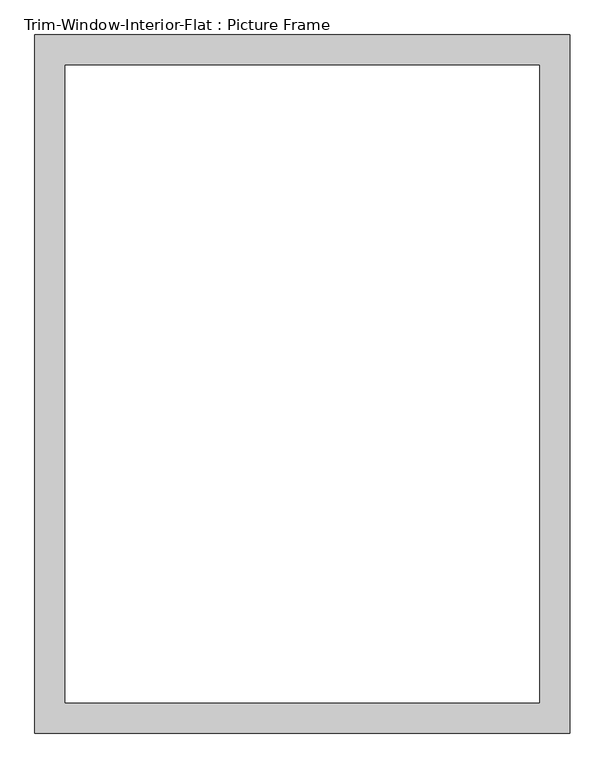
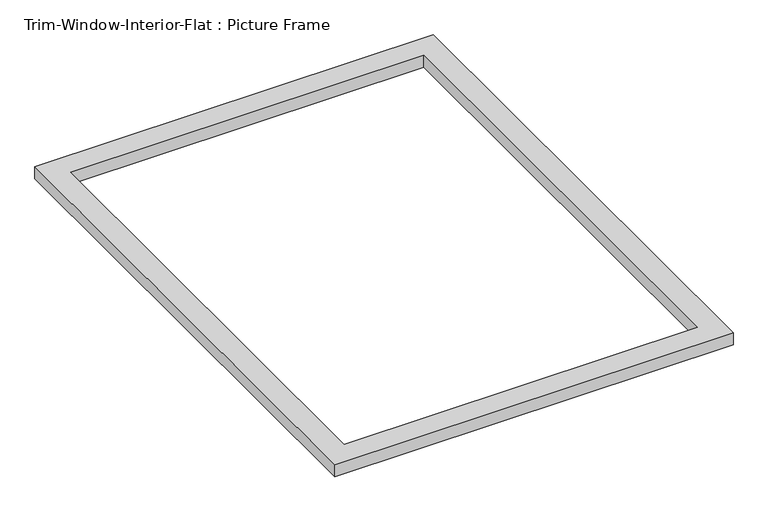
"""IFC4 building model written with IfcOpenShell, lengths in millimetres: proxy geometry, Trim-Window-Interior-Flat : Picture Frame."""

import ifcopenshell
import ifcopenshell.guid

model = None  # the IFC model being written
_history = None  # IfcOwnerHistory: only IFC2X3 demands one
_inside = {}  # id of a spatial element -> (the spatial element, [elements in it])
_under = {}  # id of a project, library or spatial element -> (it, [spatial elements below it])
_declared = {}  # id of a project -> (the project, [libraries it declares])
_typed = {}  # id of a type object -> (the type object, [elements of that type])
_made_of = {}  # id of a material, layer set ... -> (it, [elements and type objects made of it])


def new_model(schema):
    """Start an empty IFC model of exactly this schema.

    Asked for "IFC4X3", IfcOpenShell would pick the latest addendum, in which some entities
    have other attributes; the version numbers below select the first issue.
    IFC2X3 requires an IfcOwnerHistory on every rooted entity: one is made here for all.
    """
    global model, _history
    if schema == "IFC4X3":
        model = ifcopenshell.file(schema_version=(4, 3, 0, 0))
    else:
        model = ifcopenshell.file(schema=schema)
    _inside.clear()
    _under.clear()
    _declared.clear()
    _typed.clear()
    _made_of.clear()
    _history = None
    if model.schema == "IFC2X3":
        org = make("IfcOrganization", Name="unknown")
        user = make(
            "IfcPersonAndOrganization",
            ThePerson=make("IfcPerson", FamilyName="unknown"),
            TheOrganization=org,
        )
        app = make(
            "IfcApplication",
            ApplicationDeveloper=org,
            Version="unknown",
            ApplicationFullName="unknown",
            ApplicationIdentifier="unknown",
        )
        _history = make(
            "IfcOwnerHistory",
            OwningUser=user,
            OwningApplication=app,
            ChangeAction="ADDED",
            CreationDate=0,
        )
    return model


def make(cls, **values):
    """One entity of the class cls with the attributes given. An attribute that is None is left unset."""
    return model.create_entity(
        cls, **{name: value for name, value in values.items() if value is not None}
    )


def rooted(cls, **values):
    """An entity with a GlobalId (a new one), such as an element, a storey or a relation."""
    return make(cls, GlobalId=ifcopenshell.guid.new(), OwnerHistory=_history, **values)


def si_unit(unit_type, name, prefix=None):
    """IfcSIUnit, for example si_unit("LENGTHUNIT", "METRE", prefix="MILLI")."""
    return make("IfcSIUnit", UnitType=unit_type, Prefix=prefix, Name=name)


def assignment(units):
    """IfcUnitAssignment: the units of a project."""
    return None if units is None else make("IfcUnitAssignment", Units=units)


def point(xyz):
    """IfcCartesianPoint."""
    return None if xyz is None else make("IfcCartesianPoint", Coordinates=xyz)


def direction(xyz):
    """IfcDirection."""
    return None if xyz is None else make("IfcDirection", DirectionRatios=xyz)


def frame(location, z_axis=None, x_axis=None):
    """IfcAxis2Placement3D, a coordinate frame: its origin and axes. An axis left out is left unset."""
    return make(
        "IfcAxis2Placement3D",
        Location=point(location),
        Axis=direction(z_axis),
        RefDirection=direction(x_axis),
    )


def origin():
    """The frame at (0, 0, 0) with its axes left unset."""
    return frame((0.0, 0.0, 0.0))


def origin_with_axes():
    """The frame at (0, 0, 0) with the z axis (0, 0, 1) and the x axis (1, 0, 0) written out."""
    return frame((0.0, 0.0, 0.0), z_axis=(0.0, 0.0, 1.0), x_axis=(1.0, 0.0, 0.0))


def place(relative_to, where):
    """IfcLocalPlacement: puts the frame where relative to a parent placement (None: the world)."""
    return make(
        "IfcLocalPlacement", PlacementRelTo=relative_to, RelativePlacement=where
    )


def context(
    kind, dimensions, precision=None, world=None, true_north=None, identifier=None
):
    """IfcGeometricRepresentationContext, for example the 3D "Model" context."""
    return make(
        "IfcGeometricRepresentationContext",
        ContextIdentifier=identifier,
        ContextType=kind,
        CoordinateSpaceDimension=dimensions,
        Precision=precision,
        WorldCoordinateSystem=world,
        TrueNorth=true_north,
    )


def project(units=None, contexts=None):
    """IfcProject with its units and contexts."""
    return rooted(
        "IfcProject",
        Name="project",
        RepresentationContexts=contexts,
        UnitsInContext=assignment(units),
    )


def spatial(cls, under=None, at=None, **own):
    """A site, building, storey or space (cls), placed at a placement, below another one or the project."""
    s = rooted(cls, ObjectPlacement=at, **own)
    if under is not None:
        _under.setdefault(under.id(), (under, []))[1].append(s)
    return s


def polyline(points):
    """IfcPolyline through the points."""
    return make("IfcPolyline", Points=[point(p) for p in points])


def outline(outer, holes=None, kind="AREA"):
    """IfcArbitraryClosedProfileDef: a profile drawn as a closed curve; with holes, ...WithVoids."""
    if holes is None:
        return make("IfcArbitraryClosedProfileDef", ProfileType=kind, OuterCurve=outer)
    return make(
        "IfcArbitraryProfileDefWithVoids",
        ProfileType=kind,
        OuterCurve=outer,
        InnerCurves=holes,
    )


def extrude(swept, where, along, depth):
    """IfcExtrudedAreaSolid: the profile swept, set in the frame where, extruded along a direction by depth."""
    return make(
        "IfcExtrudedAreaSolid",
        SweptArea=swept,
        Position=where,
        ExtrudedDirection=direction(along),
        Depth=depth,
    )


def shape(context_of_items, identifier, shape_type, items):
    """IfcShapeRepresentation: the items that make up one representation, for example the "Body"."""
    return make(
        "IfcShapeRepresentation",
        ContextOfItems=context_of_items,
        RepresentationIdentifier=identifier,
        RepresentationType=shape_type,
        Items=items,
    )


def source(mapping_origin, context_of_items, identifier, shape_type, items):
    """IfcRepresentationMap: a shape defined once, which mapped items show again and again."""
    return make(
        "IfcRepresentationMap",
        MappingOrigin=mapping_origin,
        MappedRepresentation=shape(context_of_items, identifier, shape_type, items),
    )


def transform(
    local_origin,
    x_axis=None,
    y_axis=None,
    z_axis=None,
    scale=None,
    scale2=None,
    scale3=None,
    uniform=True,
):
    """IfcCartesianTransformationOperator3D, or its non-uniform kind. x_axis, y_axis, z_axis: its Axis1, 2, 3."""
    if uniform:
        return make(
            "IfcCartesianTransformationOperator3D",
            Axis1=direction(x_axis),
            Axis2=direction(y_axis),
            LocalOrigin=point(local_origin),
            Scale=scale,
            Axis3=direction(z_axis),
        )
    return make(
        "IfcCartesianTransformationOperator3DnonUniform",
        Axis1=direction(x_axis),
        Axis2=direction(y_axis),
        LocalOrigin=point(local_origin),
        Scale=scale,
        Axis3=direction(z_axis),
        Scale2=scale2,
        Scale3=scale3,
    )


def mapped(mapping_source, mapping_target):
    """IfcMappedItem: shows the shape of a source again, moved by a transform."""
    return make(
        "IfcMappedItem", MappingSource=mapping_source, MappingTarget=mapping_target
    )


def made_of(thing, what):
    """Note that an element or type object is made of a material, layer set ...; save() writes the relation."""
    if what is not None:
        _made_of.setdefault(what.id(), (what, []))[1].append(thing)
    return thing


def element(
    cls,
    number,
    at=None,
    inside=None,
    cuts=None,
    type_object=None,
    material=None,
    context=None,
    identifier="Body",
    shape_type=None,
    held_by="IfcProductDefinitionShape",
    body=None,
    shapes=None,
    **own,
):
    """One element of the class cls, such as IfcWall. Its Tag is "e" and its number.

    at: its placement. inside: the storey or other place that contains it. cuts: it is an
    opening in that element (IfcRelVoidsElement). A single representation is given by context,
    identifier, shape_type and body (its items); several are given by shapes. held_by: the class
    of the entity that holds the representations. save() writes the other relations.
    """
    e = rooted(cls, Tag="e%d" % number, ObjectPlacement=at, **own)
    if body is not None:
        shapes = [shape(context, identifier, shape_type, body)]
    if shapes is not None:
        e.Representation = make(held_by, Representations=shapes)
    if inside is not None:
        _inside.setdefault(inside.id(), (inside, []))[1].append(e)
    if cuts is not None:
        rooted(
            "IfcRelVoidsElement", RelatingBuildingElement=cuts, RelatedOpeningElement=e
        )
    if type_object is not None:
        _typed.setdefault(type_object.id(), (type_object, []))[1].append(e)
    return made_of(e, material)


def aggregate(whole, parts):
    """IfcRelAggregates: a whole, such as a stair, and the parts it consists of."""
    return rooted("IfcRelAggregates", RelatingObject=whole, RelatedObjects=parts)


def save(model, path):
    """Write the relations noted so far, then the file.

    IfcRelAggregates (storeys below a building ...), IfcRelContainedInSpatialStructure (elements
    in a storey), IfcRelDefinesByType, IfcRelAssociatesMaterial and IfcRelDeclares: one each for
    every whole, place, type object, material and project.
    """
    for whole, parts in _under.values():
        aggregate(whole, parts)
    for where, things in _inside.values():
        rooted(
            "IfcRelContainedInSpatialStructure",
            RelatedElements=things,
            RelatingStructure=where,
        )
    for kind, things in _typed.values():
        rooted("IfcRelDefinesByType", RelatedObjects=things, RelatingType=kind)
    for what, things in _made_of.values():
        rooted("IfcRelAssociatesMaterial", RelatedObjects=things, RelatingMaterial=what)
    for by, libraries in _declared.values():
        rooted("IfcRelDeclares", RelatingContext=by, RelatedDefinitions=libraries)
    model.write(path)


def trim_window_interior_flat_picture_frame_2efe6088(model_context):
    return source(origin(), model_context, "Body", "SweptSolid", [
        extrude(outline(polyline([(501.95, -44.45), (-501.95, -44.45), (-501.95, 1264.45), (501.95, 1264.45), (501.95, -44.45)]), holes=[polyline([(444.8, 12.7), (444.8, 1207.3), (-444.8, 1207.3), (-444.8, 12.7), (444.8, 12.7)])]), origin_with_axes(), (0.0, 0.0, 1.0), 31.75),
    ])


if __name__ == "__main__":
    model = new_model("IFC4")
    model_context = context("Model", 3, world=origin())
    ifc_project = project(units=[si_unit("LENGTHUNIT", "METRE", prefix="MILLI")], contexts=[model_context])
    site = spatial("IfcSite", under=ifc_project)
    building = spatial("IfcBuilding", under=site)
    placement = place(None, origin())
    trim_window_interior_flat_picture_frame_shape = trim_window_interior_flat_picture_frame_2efe6088(model_context)
    element("IfcBuildingElementProxy", 1, Name="Trim-Window-Interior-Flat : Picture Frame", ObjectType="Trim-Window-Interior-Flat : Picture Frame", at=placement, inside=building, context=model_context, shape_type="MappedRepresentation", body=[
        mapped(trim_window_interior_flat_picture_frame_shape, transform((0.0, 0.0, 0.0), x_axis=(1.0, 0.0, 0.0), y_axis=(0.0, 1.0, 0.0), z_axis=(0.0, 0.0, 1.0))),
    ])
    save(model, "model.ifc")
